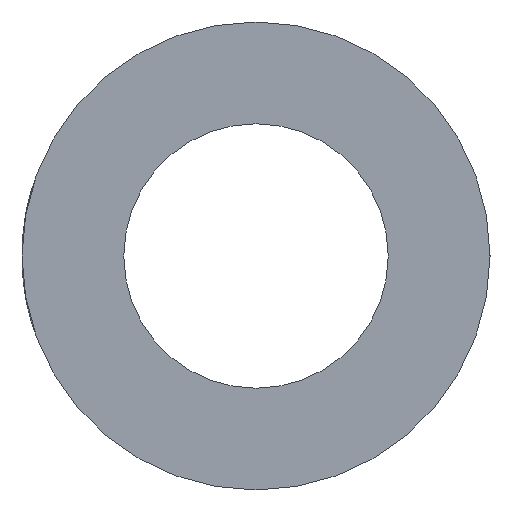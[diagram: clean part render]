
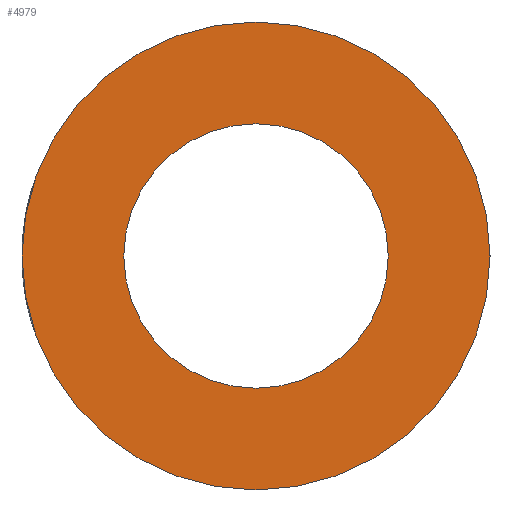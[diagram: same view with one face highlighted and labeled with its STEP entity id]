
A CAD part, left-side view. The second image highlights one B-rep face of the part: STEP entity #4979.
In plain terms, the highlighted planar face has unit normal (-1, 0, 0).
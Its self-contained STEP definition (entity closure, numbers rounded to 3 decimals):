
#117=PLANE('',#5364);
#341=CIRCLE('',#5363,11.5);
#342=CIRCLE('',#5365,6.5);
#1482=ORIENTED_EDGE('',*,*,#2988,.T.);
#1483=ORIENTED_EDGE('',*,*,#2987,.F.);
#2987=EDGE_CURVE('',#3740,#3740,#341,.T.);
#2988=EDGE_CURVE('',#3741,#3741,#342,.T.);
#3740=VERTEX_POINT('',#7777);
#3741=VERTEX_POINT('',#7780);
#4248=EDGE_LOOP('',(#1482));
#4249=EDGE_LOOP('',(#1483));
#4608=FACE_BOUND('',#4248,.T.);
#4609=FACE_BOUND('',#4249,.T.);
#4979=ADVANCED_FACE('',(#4608,#4609),#117,.F.);
#5363=AXIS2_PLACEMENT_3D('',#7776,#5867,#5868);
#5364=AXIS2_PLACEMENT_3D('',#7778,#5869,#5870);
#5365=AXIS2_PLACEMENT_3D('',#7779,#5871,#5872);
#5867=DIRECTION('',(1.,0.,0.));
#5868=DIRECTION('',(0.,0.,-1.));
#5869=DIRECTION('',(1.,0.,0.));
#5870=DIRECTION('',(0.,0.,-1.));
#5871=DIRECTION('',(1.,0.,0.));
#5872=DIRECTION('',(0.,0.,-1.));
#7776=CARTESIAN_POINT('',(-16.,0.,0.));
#7777=CARTESIAN_POINT('',(-16.,0.,-11.5));
#7778=CARTESIAN_POINT('',(-16.,0.,0.));
#7779=CARTESIAN_POINT('',(-16.,0.,0.));
#7780=CARTESIAN_POINT('',(-16.,0.,-6.5));
